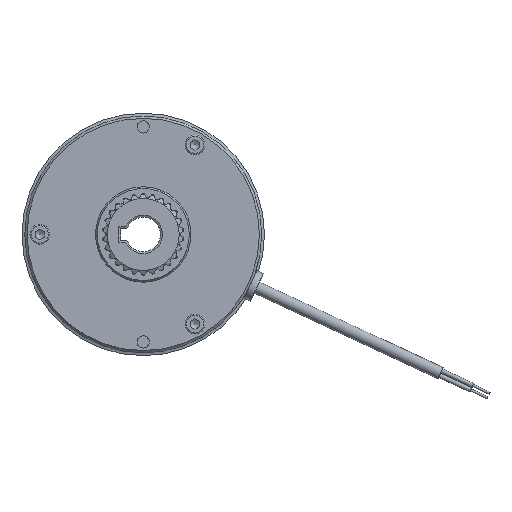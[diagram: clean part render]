
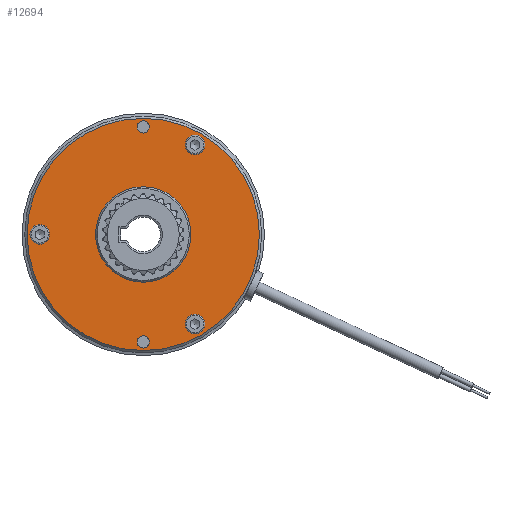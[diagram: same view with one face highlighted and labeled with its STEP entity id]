
A CAD part, left-side view. The second image highlights one B-rep face of the part: STEP entity #12694.
In plain terms, the highlighted planar face has unit normal (-1, 0, 0).
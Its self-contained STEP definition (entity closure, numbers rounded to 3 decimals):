
#131=FACE_BOUND('',#1468,.T.);
#132=FACE_BOUND('',#1469,.T.);
#133=FACE_BOUND('',#1470,.T.);
#134=FACE_BOUND('',#1471,.T.);
#135=FACE_BOUND('',#1472,.T.);
#136=FACE_BOUND('',#1473,.T.);
#317=PLANE('',#13846);
#856=FACE_OUTER_BOUND('',#1467,.T.);
#1467=EDGE_LOOP('',(#10451));
#1468=EDGE_LOOP('',(#10452,#10453));
#1469=EDGE_LOOP('',(#10454,#10455));
#1470=EDGE_LOOP('',(#10456,#10457));
#1471=EDGE_LOOP('',(#10458,#10459));
#1472=EDGE_LOOP('',(#10460,#10461));
#1473=EDGE_LOOP('',(#10462));
#3636=CIRCLE('',#13684,4.25);
#3637=CIRCLE('',#13685,4.25);
#3650=CIRCLE('',#13712,4.25);
#3651=CIRCLE('',#13713,4.25);
#3664=CIRCLE('',#13740,4.25);
#3665=CIRCLE('',#13741,4.25);
#3722=CIRCLE('',#13833,20.75);
#3733=CIRCLE('',#13847,50.5);
#3734=CIRCLE('',#13848,2.65);
#3735=CIRCLE('',#13849,2.65);
#3736=CIRCLE('',#13850,2.65);
#3737=CIRCLE('',#13851,2.65);
#5163=VERTEX_POINT('',#24751);
#5164=VERTEX_POINT('',#24752);
#5190=VERTEX_POINT('',#24843);
#5191=VERTEX_POINT('',#24844);
#5217=VERTEX_POINT('',#24935);
#5218=VERTEX_POINT('',#24936);
#5289=VERTEX_POINT('',#25261);
#5300=VERTEX_POINT('',#25287);
#5301=VERTEX_POINT('',#25289);
#5302=VERTEX_POINT('',#25290);
#5303=VERTEX_POINT('',#25293);
#5304=VERTEX_POINT('',#25294);
#6898=EDGE_CURVE('',#5163,#5164,#3636,.T.);
#6899=EDGE_CURVE('',#5164,#5163,#3637,.T.);
#6935=EDGE_CURVE('',#5190,#5191,#3650,.T.);
#6936=EDGE_CURVE('',#5191,#5190,#3651,.T.);
#6972=EDGE_CURVE('',#5217,#5218,#3664,.T.);
#6973=EDGE_CURVE('',#5218,#5217,#3665,.T.);
#7067=EDGE_CURVE('',#5289,#5289,#3722,.T.);
#7078=EDGE_CURVE('',#5300,#5300,#3733,.T.);
#7079=EDGE_CURVE('',#5301,#5302,#3734,.T.);
#7080=EDGE_CURVE('',#5302,#5301,#3735,.T.);
#7081=EDGE_CURVE('',#5303,#5304,#3736,.T.);
#7082=EDGE_CURVE('',#5304,#5303,#3737,.T.);
#10451=ORIENTED_EDGE('',*,*,#7078,.F.);
#10452=ORIENTED_EDGE('',*,*,#6898,.T.);
#10453=ORIENTED_EDGE('',*,*,#6899,.T.);
#10454=ORIENTED_EDGE('',*,*,#6935,.T.);
#10455=ORIENTED_EDGE('',*,*,#6936,.T.);
#10456=ORIENTED_EDGE('',*,*,#6972,.T.);
#10457=ORIENTED_EDGE('',*,*,#6973,.T.);
#10458=ORIENTED_EDGE('',*,*,#7079,.T.);
#10459=ORIENTED_EDGE('',*,*,#7080,.T.);
#10460=ORIENTED_EDGE('',*,*,#7081,.T.);
#10461=ORIENTED_EDGE('',*,*,#7082,.T.);
#10462=ORIENTED_EDGE('',*,*,#7067,.T.);
#12694=ADVANCED_FACE('',(#856,#131,#132,#133,#134,#135,#136),#317,.T.);
#13684=AXIS2_PLACEMENT_3D('',#24753,#16219,#16220);
#13685=AXIS2_PLACEMENT_3D('',#24754,#16221,#16222);
#13712=AXIS2_PLACEMENT_3D('',#24845,#16291,#16292);
#13713=AXIS2_PLACEMENT_3D('',#24846,#16293,#16294);
#13740=AXIS2_PLACEMENT_3D('',#24937,#16363,#16364);
#13741=AXIS2_PLACEMENT_3D('',#24938,#16365,#16366);
#13833=AXIS2_PLACEMENT_3D('',#25263,#16573,#16574);
#13846=AXIS2_PLACEMENT_3D('',#25286,#16599,#16600);
#13847=AXIS2_PLACEMENT_3D('',#25288,#16601,#16602);
#13848=AXIS2_PLACEMENT_3D('',#25291,#16603,#16604);
#13849=AXIS2_PLACEMENT_3D('',#25292,#16605,#16606);
#13850=AXIS2_PLACEMENT_3D('',#25295,#16607,#16608);
#13851=AXIS2_PLACEMENT_3D('',#25296,#16609,#16610);
#16219=DIRECTION('center_axis',(1.,0.,0.));
#16220=DIRECTION('ref_axis',(0.,-1.,0.));
#16221=DIRECTION('center_axis',(1.,0.,0.));
#16222=DIRECTION('ref_axis',(0.,-1.,0.));
#16291=DIRECTION('center_axis',(1.,0.,0.));
#16292=DIRECTION('ref_axis',(0.,-0.5,-0.866));
#16293=DIRECTION('center_axis',(1.,0.,0.));
#16294=DIRECTION('ref_axis',(0.,-0.5,-0.866));
#16363=DIRECTION('center_axis',(1.,0.,0.));
#16364=DIRECTION('ref_axis',(0.,-1.,0.));
#16365=DIRECTION('center_axis',(1.,0.,0.));
#16366=DIRECTION('ref_axis',(0.,-1.,0.));
#16573=DIRECTION('center_axis',(1.,0.,0.));
#16574=DIRECTION('ref_axis',(0.,0.,1.));
#16599=DIRECTION('center_axis',(-1.,0.,0.));
#16600=DIRECTION('ref_axis',(0.,0.,1.));
#16601=DIRECTION('center_axis',(1.,0.,0.));
#16602=DIRECTION('ref_axis',(0.,-1.,0.));
#16603=DIRECTION('center_axis',(1.,0.,0.));
#16604=DIRECTION('ref_axis',(0.,0.,1.));
#16605=DIRECTION('center_axis',(1.,0.,0.));
#16606=DIRECTION('ref_axis',(0.,0.,1.));
#16607=DIRECTION('center_axis',(1.,0.,0.));
#16608=DIRECTION('ref_axis',(0.,0.,1.));
#16609=DIRECTION('center_axis',(1.,0.,0.));
#16610=DIRECTION('ref_axis',(0.,0.,1.));
#24751=CARTESIAN_POINT('',(-18.2,-26.75,-38.971));
#24752=CARTESIAN_POINT('',(-18.2,-18.25,-38.971));
#24753=CARTESIAN_POINT('Origin',(-18.2,-22.5,-38.971));
#24754=CARTESIAN_POINT('Origin',(-18.2,-22.5,-38.971));
#24843=CARTESIAN_POINT('',(-18.2,42.875,-3.681));
#24844=CARTESIAN_POINT('',(-18.2,47.125,3.681));
#24845=CARTESIAN_POINT('Origin',(-18.2,45.,0.));
#24846=CARTESIAN_POINT('Origin',(-18.2,45.,0.));
#24935=CARTESIAN_POINT('',(-18.2,-26.75,38.971));
#24936=CARTESIAN_POINT('',(-18.2,-18.25,38.971));
#24937=CARTESIAN_POINT('Origin',(-18.2,-22.5,38.971));
#24938=CARTESIAN_POINT('Origin',(-18.2,-22.5,38.971));
#25261=CARTESIAN_POINT('',(-18.2,0.,-20.75));
#25263=CARTESIAN_POINT('Origin',(-18.2,0.,
0.));
#25286=CARTESIAN_POINT('Origin',(-18.2,25.75,0.));
#25287=CARTESIAN_POINT('',(-18.2,50.5,0.));
#25288=CARTESIAN_POINT('Origin',(-18.2,0.,
0.));
#25289=CARTESIAN_POINT('',(-18.2,0.,49.4));
#25290=CARTESIAN_POINT('',(-18.2,0.,44.1));
#25291=CARTESIAN_POINT('Origin',(-18.2,0.,
46.75));
#25292=CARTESIAN_POINT('Origin',(-18.2,0.,
46.75));
#25293=CARTESIAN_POINT('',(-18.2,0.,-44.1));
#25294=CARTESIAN_POINT('',(-18.2,0.,-49.4));
#25295=CARTESIAN_POINT('Origin',(-18.2,0.,
-46.75));
#25296=CARTESIAN_POINT('Origin',(-18.2,0.,
-46.75));
